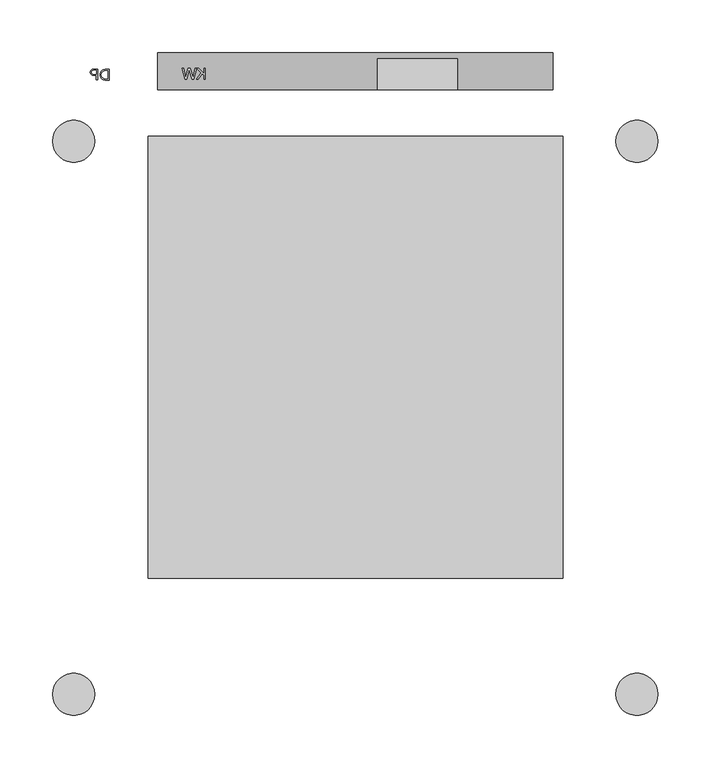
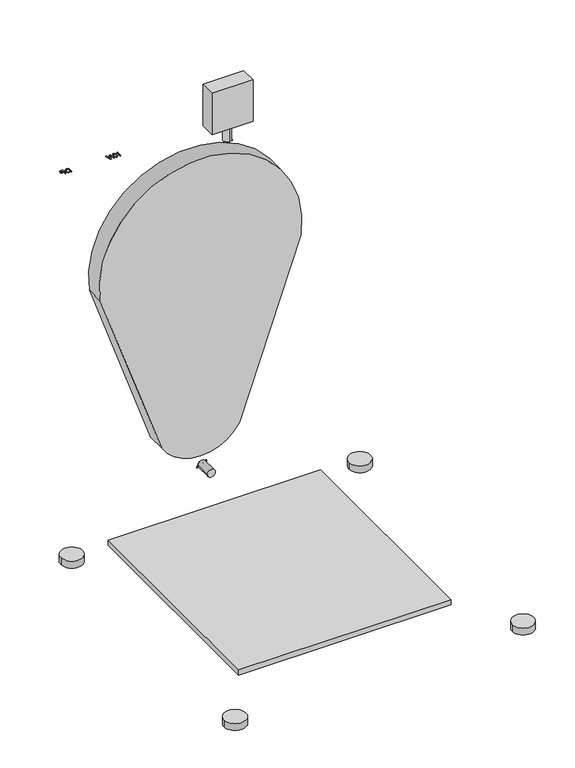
"""IFC4 building model written with IfcOpenShell, lengths in millimetres: proxy geometry, 11470760_ZER_PWM307DP_LWCC : 51307172_ZER_11470760_PWM307DP_LWCC."""

from ifc_helpers import new_model, si_unit, point, frame, frame_2d, origin, origin_with_axes, place, context, project, spatial, polyline, circle_curve, trimmed, segment, composite_curve, outline, extrude, source, transform, mapped, element, save


def specialty_equipment_23190b8d(model_context):
    return source(origin(), model_context, "Body", "SweptSolid", [
        extrude(outline(polyline([(-142.5237638, -25.0), (-143.7834134, -25.0), (-143.7834134, -21.5422104), (-145.4717236, -19.9295918), (-149.3062539, -24.9960047), (-150.8371057, -24.9960047), (-146.3635304, -19.0812626), (-150.682024, -14.9545468), (-148.9188384, -14.9545468), (-143.7734276, -19.8714576), (-143.7734276, -14.9547748), (-142.5237638, -14.9547748), (-142.5237638, -25.0)])), frame((0.0, 0.0, 715.5), z_axis=(0.0, 0.0, 1.0), x_axis=(1.0, 0.0, 0.0)), (0.0, 0.0, 1.0), 1.0),
        extrude(outline(polyline([(-153.5799346, -25.0), (-155.1013346, -25.0), (-157.6681659, -16.1680585), (-160.4132353, -25.0), (-161.7588291, -25.0), (-164.4977428, -14.9547748), (-163.1999912, -14.9547748), (-161.1258941, -23.5916213), (-158.6010837, -14.9547748), (-156.7331206, -14.9547748), (-154.2135942, -23.5959701), (-152.1412312, -14.9547748), (-150.8442078, -14.9547748), (-153.5799346, -25.0)])), frame((0.0, 0.0, 715.5), z_axis=(0.0, 0.0, 1.0), x_axis=(1.0, 0.0, 0.0)), (0.0, 0.0, 1.0), 1.0),
        extrude(outline(composite_curve([segment(polyline([(37.0012365, 26.8350179), (37.0012365, 28.0926569), (47.0457018, 28.0926569), (47.0457018, 24.2588697)]), True, "CONTINUOUS"), segment(trimmed(circle_curve(frame_2d((44.0634182, 24.2588697)), 2.9822837), [point((47.0457018, 24.2588697))], [point((41.0811345, 24.2588697))], False, "CARTESIAN"), True, "CONTINUOUS"), segment(polyline([(41.0811345, 24.2588697), (41.0811345, 26.8350179), (37.0012365, 26.8350179)]), True, "CONTINUOUS")], self_intersect=False), holes=[composite_curve([segment(trimmed(circle_curve(frame_2d((44.0644309, 24.2588697)), 1.7264899), [point((42.3379411, 24.2588697))], [point((45.7909208, 24.2588697))], True, "CARTESIAN"), True, "CONTINUOUS"), segment(polyline([(45.7909208, 24.2588697), (45.7909208, 26.8350179), (42.3379411, 26.8350179), (42.3379411, 24.2588697)]), True, "CONTINUOUS")], self_intersect=False)]), frame((0.0, -5.0, 0.0), z_axis=(0.0, 1.0, 0.0), x_axis=(0.0, 0.0, 1.0)), (0.0, 0.0, 1.0), 1.0),
        extrude(outline(polyline([(37.0006445, 18.6718375), (37.0006445, 20.0), (47.0451716, 15.9923232), (47.0451716, 14.9218811), (37.0004865, 10.9106116), (37.0004865, 12.2393282), (40.1391224, 13.3892124), (40.1391224, 17.526368), (37.0006445, 18.6718375)]), holes=[polyline([(41.3966781, 13.8483756), (45.7905035, 15.4566766), (41.3966781, 17.0651073), (41.3966781, 13.8483756)])]), frame((0.0, -5.0, 0.0), z_axis=(0.0, 1.0, 0.0), x_axis=(0.0, 0.0, 1.0)), (0.0, 0.0, 1.0), 1.0),
        extrude(outline(composite_curve([segment(trimmed(circle_curve(frame_2d((42.0, 20.0)), 7.5), [point((42.0, 27.5))], [point((42.0, 12.5))], False, "CARTESIAN"), True, "CONTINUOUS"), segment(trimmed(circle_curve(frame_2d((42.0, 20.0)), 7.5), [point((42.0, 12.5))], [point((42.0, 27.5))], False, "CARTESIAN"), True, "CONTINUOUS")], self_intersect=False)), frame((0.0, -35.0, 0.0), z_axis=(0.0, 1.0, 0.0), x_axis=(0.0, 0.0, 1.0)), (0.0, 0.0, 1.0), 30.0),
        extrude(outline(polyline([(54.7566495, -26.4555134), (48.4761766, -26.4555134), (48.4761766, -25.1997667), (53.4981583, -25.1997667), (53.4981583, -16.4081759), (54.7566495, -16.4081759), (54.7566495, -26.4555134)])), frame((0.0, 0.0, 675.0), z_axis=(0.0, 0.0, 1.0), x_axis=(1.0, 0.0, 0.0)), (0.0, 0.0, 1.0), 1.0),
        extrude(outline(polyline([(64.0215267, -16.4081759), (64.0215267, -26.4554669), (56.6392877, -26.4554669), (56.6392877, -25.1995171), (62.7595964, -25.1995171), (62.7595964, -21.9031269), (57.1079823, -21.9031269), (57.1079823, -20.6478177), (62.7596269, -20.6478177), (62.7596269, -17.6653752), (56.7945524, -17.6653752), (56.7945524, -16.4081759), (64.0215267, -16.4081759)])), frame((0.0, 0.0, 675.0), z_axis=(0.0, 0.0, 1.0), x_axis=(1.0, 0.0, 0.0)), (0.0, 0.0, 1.0), 1.0),
        extrude(outline(composite_curve([segment(trimmed(circle_curve(frame_2d((57.0, -21.5)), 7.5), [point((57.0, -14.0))], [point((57.0, -29.0))], False, "CARTESIAN"), True, "CONTINUOUS"), segment(trimmed(circle_curve(frame_2d((57.0, -21.5)), 7.5), [point((57.0, -29.0))], [point((57.0, -14.0))], False, "CARTESIAN"), True, "CONTINUOUS")], self_intersect=False)), frame((0.0, 0.0, 676.0), z_axis=(0.0, 0.0, 1.0), x_axis=(1.0, 0.0, 0.0)), (0.0, 0.0, 1.0), 30.0),
        extrude(outline(polyline([(21.0, -6.0), (97.0, -6.0), (97.0, -35.0), (21.0, -35.0), (21.0, -6.0)])), frame((0.0, 0.0, 706.0), z_axis=(0.0, 0.0, 1.0), x_axis=(1.0, 0.0, 0.0)), (0.0, 0.0, 1.0), 81.0),
        extrude(outline(composite_curve([segment(polyline([(-233.9721924, -25.9934177), (-237.4675721, -25.9934177)]), True, "CONTINUOUS"), segment(trimmed(circle_curve(frame_2d((-237.4675721, -20.9704397)), 5.022978), [point((-237.4675721, -25.9934177))], [point((-237.4675721, -15.9474617))], False, "CARTESIAN"), True, "CONTINUOUS"), segment(polyline([(-237.4675721, -15.9474617), (-233.9721924, -15.9474617), (-233.9721924, -25.9934177)]), True, "CONTINUOUS")], self_intersect=False), holes=[composite_curve([segment(trimmed(circle_curve(frame_2d((-237.4675721, -20.9701844)), 3.7676667), [point((-237.4675721, -17.2025176))], [point((-237.4675721, -24.7378511))], True, "CARTESIAN"), True, "CONTINUOUS"), segment(polyline([(-237.4675721, -24.7378511), (-235.22841, -24.7378511), (-235.22841, -17.2025176), (-237.4675721, -17.2025176)]), True, "CONTINUOUS")], self_intersect=False)]), frame((0.0, 0.0, 717.0), z_axis=(0.0, 0.0, 1.0), x_axis=(1.0, 0.0, 0.0)), (0.0, 0.0, 1.0), 1.0),
        extrude(outline(composite_curve([segment(polyline([(-244.8031571, -15.6233055), (-244.8031571, -25.6693963), (-246.0589314, -25.6693963), (-246.0589314, -21.5880656), (-248.6760845, -21.5880656)]), True, "CONTINUOUS"), segment(trimmed(circle_curve(frame_2d((-248.6760845, -18.6056855)), 2.9823801), [point((-248.6760845, -21.5880656))], [point((-248.6760845, -15.6233055))], False, "CARTESIAN"), True, "CONTINUOUS"), segment(polyline([(-248.6760845, -15.6233055), (-244.8031571, -15.6233055)]), True, "CONTINUOUS")], self_intersect=False), holes=[composite_curve([segment(trimmed(circle_curve(frame_2d((-248.7253163, -18.6052432)), 1.7272254), [point((-248.7253163, -16.8780177))], [point((-248.7253163, -20.3324686))], True, "CARTESIAN"), True, "CONTINUOUS"), segment(polyline([(-248.7253163, -20.3324686), (-246.0587296, -20.3324686), (-246.0587296, -16.8780177), (-248.7253163, -16.8780177)]), True, "CONTINUOUS")], self_intersect=False)]), frame((0.0, 0.0, 717.0), z_axis=(0.0, 0.0, 1.0), x_axis=(1.0, 0.0, 0.0)), (0.0, 0.0, 1.0), 1.0),
        extrude(outline(polyline([(197.0, -79.0), (197.0, -499.0), (-197.0, -499.0), (-197.0, -79.0), (197.0, -79.0)])), frame((0.0, 0.0, 3.5), z_axis=(0.0, 0.0, 1.0), x_axis=(1.0, 0.0, 0.0)), (0.0, 0.0, 1.0), 10.0),
        extrude(outline(composite_curve([segment(trimmed(circle_curve(frame_2d((-267.5, -84.0)), 20.0), [point((-247.5, -84.0))], [point((-287.5, -84.0))], False, "CARTESIAN"), True, "CONTINUOUS"), segment(trimmed(circle_curve(frame_2d((-267.5, -84.0)), 20.0), [point((-287.5, -84.0))], [point((-247.5, -84.0))], False, "CARTESIAN"), True, "CONTINUOUS")], self_intersect=False)), origin_with_axes(), (0.0, 0.0, 1.0), 13.5),
        extrude(outline(composite_curve([segment(trimmed(circle_curve(frame_2d((267.5, -84.0)), 20.0), [point((287.5, -84.0))], [point((247.5, -84.0))], False, "CARTESIAN"), True, "CONTINUOUS"), segment(trimmed(circle_curve(frame_2d((267.5, -84.0)), 20.0), [point((247.5, -84.0))], [point((287.5, -84.0))], False, "CARTESIAN"), True, "CONTINUOUS")], self_intersect=False)), origin_with_axes(), (0.0, 0.0, 1.0), 13.5),
        extrude(outline(composite_curve([segment(trimmed(circle_curve(frame_2d((267.5, -609.0)), 20.0), [point((287.5, -609.0))], [point((247.5, -609.0))], False, "CARTESIAN"), True, "CONTINUOUS"), segment(trimmed(circle_curve(frame_2d((267.5, -609.0)), 20.0), [point((247.5, -609.0))], [point((287.5, -609.0))], False, "CARTESIAN"), True, "CONTINUOUS")], self_intersect=False)), origin_with_axes(), (0.0, 0.0, 1.0), 13.5),
        extrude(outline(composite_curve([segment(trimmed(circle_curve(frame_2d((-267.5, -609.0)), 20.0), [point((-247.5, -609.0))], [point((-287.5, -609.0))], False, "CARTESIAN"), True, "CONTINUOUS"), segment(trimmed(circle_curve(frame_2d((-267.5, -609.0)), 20.0), [point((-287.5, -609.0))], [point((-247.5, -609.0))], False, "CARTESIAN"), True, "CONTINUOUS")], self_intersect=False)), origin_with_axes(), (0.0, 0.0, 1.0), 13.5),
        extrude(outline(composite_curve([segment(trimmed(circle_curve(frame_2d((478.0, 0.0)), 188.0), [point((452.0, 186.1934478))], [point((452.0, -186.1934478))], False, "CARTESIAN"), True, "CONTINUOUS"), segment(polyline([(452.0, -186.1934478), (124.0, -72.7255113)]), True, "CONTINUOUS"), segment(trimmed(circle_curve(frame_2d((168.0, 0.0)), 85.0), [point((124.0, -72.7255113))], [point((124.0, 72.7255113))], False, "CARTESIAN"), True, "CONTINUOUS"), segment(polyline([(124.0, 72.7255113), (452.0, 186.1934478)]), True, "CONTINUOUS")], self_intersect=False)), frame((0.0, -35.0, 0.0), z_axis=(0.0, 1.0, 0.0), x_axis=(0.0, 0.0, 1.0)), (0.0, 0.0, 1.0), 35.0),
    ])


if __name__ == "__main__":
    model = new_model("IFC4")
    model_context = context("Model", 3, world=origin())
    ifc_project = project(units=[si_unit("LENGTHUNIT", "METRE", prefix="MILLI")], contexts=[model_context])
    site = spatial("IfcSite", under=ifc_project)
    building = spatial("IfcBuilding", under=site)
    placement = place(None, origin())
    specialty_equipment_shape = specialty_equipment_23190b8d(model_context)
    element("IfcBuildingElementProxy", 1, Name="11470760_ZER_PWM307DP_LWCC : 51307172_ZER_11470760_PWM307DP_LWCC", ObjectType="11470760_ZER_PWM307DP_LWCC : 51307172_ZER_11470760_PWM307DP_LWCC", at=placement, inside=building, context=model_context, shape_type="MappedRepresentation", body=[
        mapped(specialty_equipment_shape, transform((0.0, 0.0, 0.0), x_axis=(1.0, 0.0, 0.0), y_axis=(0.0, 1.0, 0.0), z_axis=(0.0, 0.0, 1.0))),
    ])
    save(model, "model.ifc")
